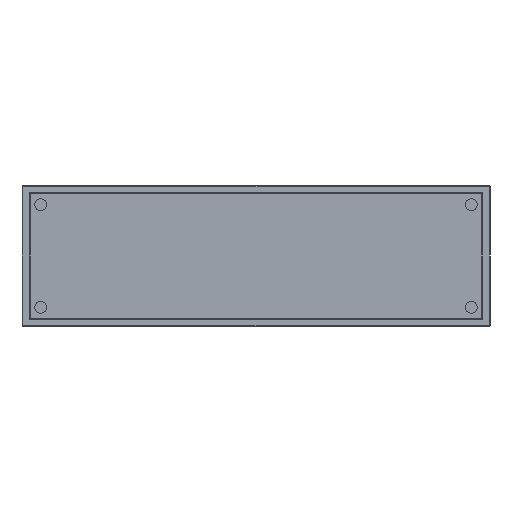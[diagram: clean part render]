
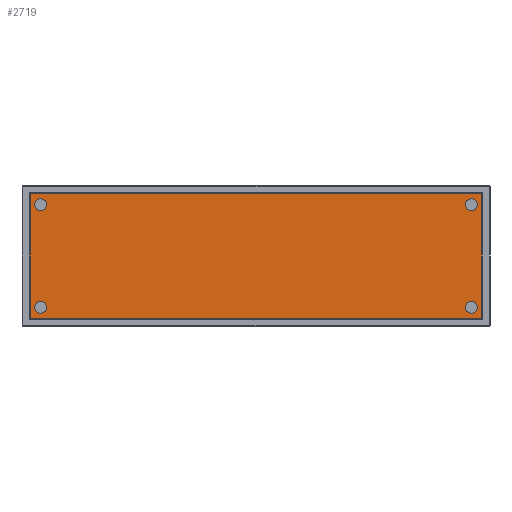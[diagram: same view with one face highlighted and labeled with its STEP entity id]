
A CAD part, front view. The second image highlights one B-rep face of the part: STEP entity #2719.
In plain terms, the highlighted planar face has unit normal (0, -1, 0).
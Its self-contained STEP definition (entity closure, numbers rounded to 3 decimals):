
#185=PLANE('',#3066);
#365=FACE_OUTER_BOUND('',#555,.T.);
#555=EDGE_LOOP('',(#2451,#2452,#2453,#2454));
#813=LINE('',#4642,#1077);
#817=LINE('',#4659,#1081);
#819=LINE('',#4662,#1083);
#821=LINE('',#4665,#1085);
#1077=VECTOR('',#3874,10.);
#1081=VECTOR('',#3896,10.);
#1083=VECTOR('',#3900,10.);
#1085=VECTOR('',#3904,10.);
#1348=VERTEX_POINT('',#4629);
#1350=VERTEX_POINT('',#4638);
#1351=VERTEX_POINT('',#4645);
#1353=VERTEX_POINT('',#4650);
#1712=EDGE_CURVE('',#1348,#1350,#813,.T.);
#1721=EDGE_CURVE('',#1350,#1353,#817,.T.);
#1723=EDGE_CURVE('',#1353,#1351,#819,.T.);
#1725=EDGE_CURVE('',#1351,#1348,#821,.T.);
#2451=ORIENTED_EDGE('',*,*,#1712,.F.);
#2452=ORIENTED_EDGE('',*,*,#1725,.F.);
#2453=ORIENTED_EDGE('',*,*,#1723,.F.);
#2454=ORIENTED_EDGE('',*,*,#1721,.F.);
#2719=ADVANCED_FACE('',(#365),#185,.T.);
#3066=AXIS2_PLACEMENT_3D('',#4669,#3910,#3911);
#3874=DIRECTION('',(-1.,0.,0.));
#3896=DIRECTION('',(0.,0.,1.));
#3900=DIRECTION('',(1.,0.,0.));
#3904=DIRECTION('',(0.,0.,-1.));
#3910=DIRECTION('center_axis',(0.,-1.,0.));
#3911=DIRECTION('ref_axis',(0.,0.,-1.));
#4629=CARTESIAN_POINT('',(482.5,-300.,-132.5));
#4638=CARTESIAN_POINT('',(-482.5,-300.,-132.5));
#4642=CARTESIAN_POINT('',(-242.25,-300.,-132.5));
#4645=CARTESIAN_POINT('',(482.5,-300.,132.5));
#4650=CARTESIAN_POINT('',(-482.5,-300.,132.5));
#4659=CARTESIAN_POINT('',(-482.5,-300.,67.25));
#4662=CARTESIAN_POINT('',(242.25,-300.,132.5));
#4665=CARTESIAN_POINT('',(482.5,-300.,-67.25));
#4669=CARTESIAN_POINT('Origin',(0.,-300.,0.));
